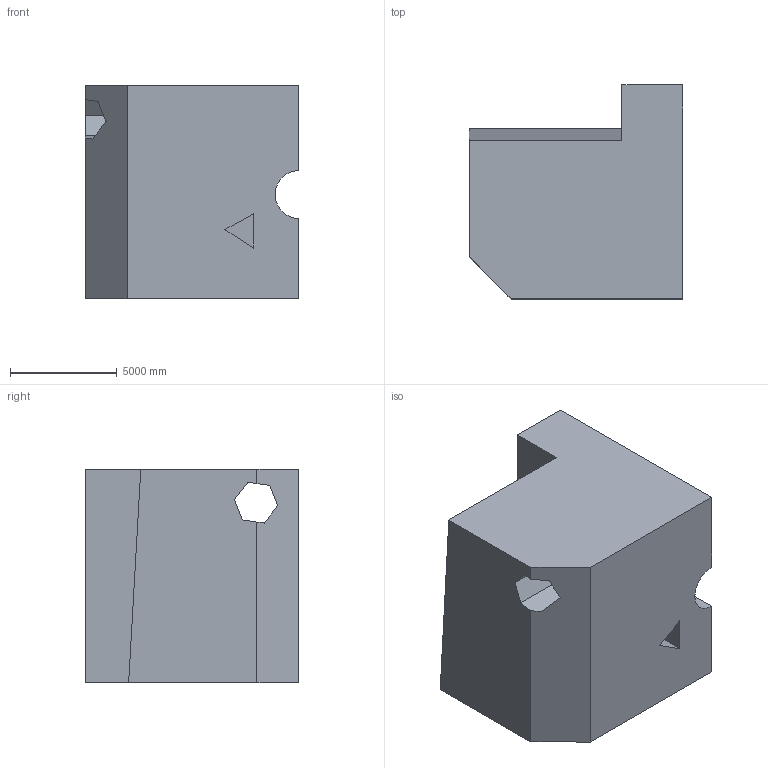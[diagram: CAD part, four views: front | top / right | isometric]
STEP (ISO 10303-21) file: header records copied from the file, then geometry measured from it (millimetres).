
FILE_DESCRIPTION (( 'STEP AP203' ), '1' );
FILE_NAME ('1764.STEP', '2022-08-19T12:42:01', ( 'user' ), ( '' ), 'SwSTEP 2.0', 'SolidWorks 2021', '' );
FILE_SCHEMA (( 'CONFIG_CONTROL_DESIGN' ));
Length unit declared in the file: centimetre
Products named in the file (1): 1764
Bounding box: 10000 x 10000 x 10000 mm (x, y, z)
Volume: 727557138576.8 mm3; surface area: 659170623.2 mm2
Topology: 1 solids, 1 shells, 33 faces, 93 edges, 62 vertices
Faces by surface type: plane 32, cylinder 1
Entity records: 1130 total; most frequent: CARTESIAN_POINT 189, ORIENTED_EDGE 186, DIRECTION 163, EDGE_CURVE 93, VECTOR 91, LINE 91, VERTEX_POINT 62, AXIS2_PLACEMENT_3D 36
